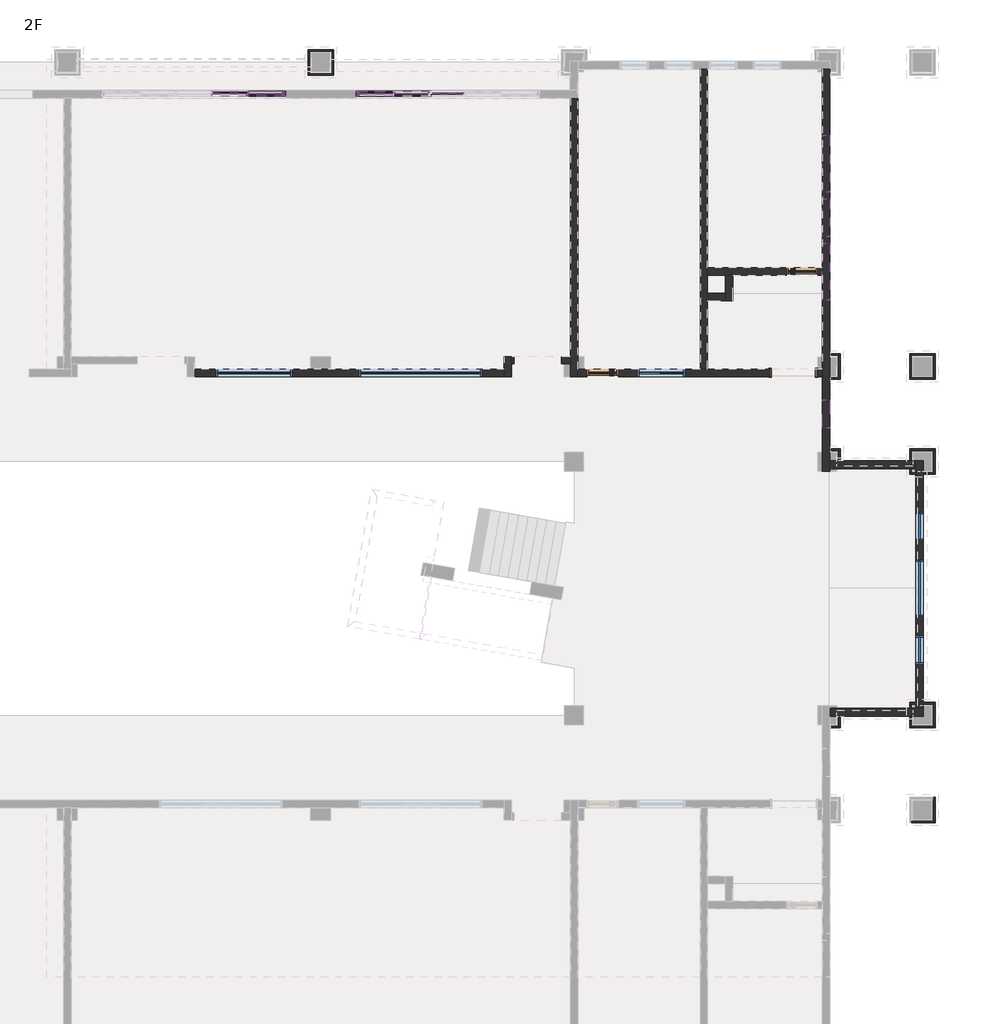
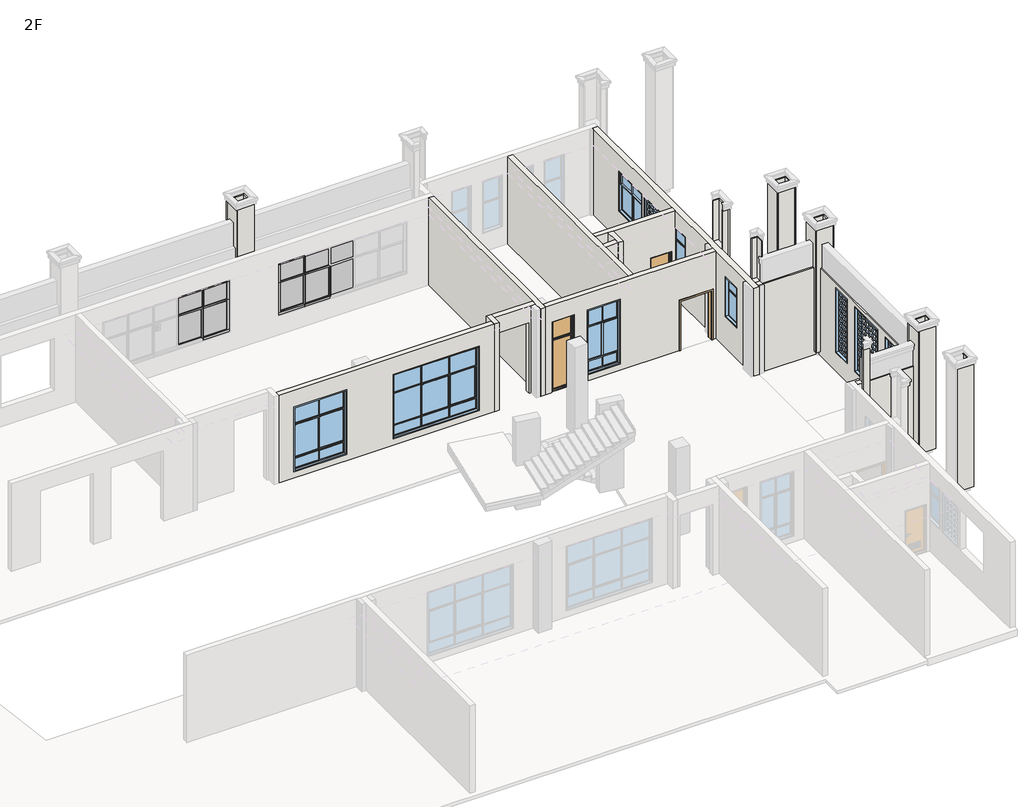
# One storey, part 8 of 16: 38 walls, 17 members, 10 windows, 8 plates, 3 doors.
"""IFC4 building model written with IfcOpenShell, lengths in millimetres."""

from ifc_helpers import new_model, si_unit, frame, origin, place, context, project, spatial, polyline, outline, extrude, faceted_brep, transform, mapped, element, save
from components import dk1_dk1_83e99b34, m2_m2_dfb05117, m3_m3_68d9ec90, member_7564be38, member_1f4d75dd, member_0b7842ad, member_163d5e45, member_ffafc35e, member_9c26cac3, member_6c42befd, member_a374fdad, plate_75e73fbb, plate_f4dba16c, plate_1cc4df2b, plate_4fa5932a, plate_00f9c624, window_f5fa71fb, byc2_byc2_f14416d1, byc3_byc3_bbe23264, lc2_lc2_cf207e28, lc5_lc5_9ec79463, lc6_lc6_03a52bd1, lc7_lc7_62699857, lc7a_lc7a_525a1188, lc8_lc8_f37dbe4c

model = new_model("IFC4")

# Units and contexts
model_context = context("Model", 3, world=origin())
ifc_project = project(units=[si_unit("LENGTHUNIT", "METRE", prefix="MILLI")], contexts=[model_context])

# Site, building, storey
site = spatial("IfcSite", under=ifc_project)
building = spatial("IfcBuilding", under=site)
storey = spatial("IfcBuildingStorey", under=building, Name="2F", Elevation=4200.0)

# Doors
placement = place(None, origin())
dk1_dk1_shape = dk1_dk1_83e99b34(model_context)
element("IfcDoor", 1, ObjectType="DK1 : DK1", at=placement, inside=storey, context=model_context, shape_type="MappedRepresentation", body=[
    mapped(dk1_dk1_shape, transform((81925.0, 23399.2230996, 4200.0), x_axis=(1.0, 0.0, 0.0), y_axis=(0.0, 1.0, 0.0), z_axis=(0.0, 0.0, 1.0))),
])
m2_m2_shape = m2_m2_dfb05117(model_context)
element("IfcDoor", 2, ObjectType="M2 : M2", at=placement, inside=storey, context=model_context, shape_type="MappedRepresentation", body=[
    mapped(m2_m2_shape, transform((75899.9999992, 23399.2230996, 4200.0), x_axis=(1.0, 0.0, 0.0), y_axis=(0.0, 1.0, 0.0), z_axis=(0.0, 0.0, 1.0))),
])
m3_m3_shape = m3_m3_68d9ec90(model_context)
element("IfcDoor", 3, ObjectType="M3 : M3", at=placement, inside=storey, context=model_context, shape_type="MappedRepresentation", body=[
    mapped(m3_m3_shape, transform((82199.9999997, 26599.2230996, 4200.0), x_axis=(-1.0, 0.0, 0.0), y_axis=(0.0, -1.0, 0.0), z_axis=(0.0, 0.0, 1.0))),
])

# Members
member_shape = member_7564be38(model_context)
element("IfcMember", 4, ObjectType="矩形竖梃 : 教学楼 – 矩形竖梃 – 100x150mm", at=placement, inside=storey, context=model_context, shape_type="MappedRepresentation", body=[
    mapped(member_shape, transform((65900.0000002, 32210.0, 7600.0), x_axis=(0.0, 0.0, 1.0), y_axis=(0.0, -1.0, 0.0), z_axis=(1.0, 0.0, 0.0))),
])
element("IfcMember", 5, ObjectType="矩形竖梃 : 教学楼 – 矩形竖梃 – 100x150mm", at=placement, inside=storey, context=model_context, shape_type="MappedRepresentation", body=[
    mapped(member_shape, transform((68099.9999995, 32210.0, 5100.0), x_axis=(0.0, 0.0, -1.0), y_axis=(0.0, -1.0, 0.0), z_axis=(-1.0, 0.0, 0.0))),
])
member_2_shape = member_1f4d75dd(model_context)
element("IfcMember", 6, ObjectType="矩形竖梃 : 教学楼 – 矩形竖梃 – 50x150mm", at=placement, inside=storey, context=model_context, shape_type="MappedRepresentation", body=[
    mapped(member_2_shape, transform((70449.9999995, 32210.0, 5200.0), x_axis=(1.0, 0.0, 0.0), y_axis=(0.0, -1.0, 0.0), z_axis=(0.0, 0.0, -1.0))),
])
member_3_shape = member_0b7842ad(model_context)
element("IfcMember", 7, ObjectType="矩形竖梃 : 教学楼 – 矩形竖梃 – 50x150mm", at=placement, inside=storey, context=model_context, shape_type="MappedRepresentation", body=[
    mapped(member_3_shape, transform((69299.9999995, 32210.0, 6650.0), x_axis=(0.0, 0.0, 1.0), y_axis=(0.0, -1.0, 0.0), z_axis=(1.0, 0.0, 0.0))),
])
member_4_shape = member_163d5e45(model_context)
element("IfcMember", 8, ObjectType="矩形竖梃 : 教学楼 – 矩形竖梃 – 50x150mm", at=placement, inside=storey, context=model_context, shape_type="MappedRepresentation", body=[
    mapped(member_4_shape, transform((64700.0000002, 32210.0, 6650.0), x_axis=(0.0, 0.0, 1.0), y_axis=(0.0, -1.0, 0.0), z_axis=(1.0, 0.0, 0.0))),
])
element("IfcMember", 9, ObjectType="矩形竖梃 : 教学楼 – 矩形竖梃 – 50x150mm", at=placement, inside=storey, context=model_context, shape_type="MappedRepresentation", body=[
    mapped(member_4_shape, transform((70449.9999995, 32210.0, 6650.0), x_axis=(0.0, 0.0, 1.0), y_axis=(0.0, -1.0, 0.0), z_axis=(1.0, 0.0, 0.0))),
])
element("IfcMember", 10, ObjectType="矩形竖梃 : 教学楼 – 矩形竖梃 – 50x150mm", at=placement, inside=storey, context=model_context, shape_type="MappedRepresentation", body=[
    mapped(member_3_shape, transform((65800.0000002, 32210.0, 6650.0), x_axis=(0.0, 0.0, 1.0), y_axis=(0.0, -1.0, 0.0), z_axis=(1.0, 0.0, 0.0))),
])
member_5_shape = member_ffafc35e(model_context)
element("IfcMember", 11, ObjectType="矩形竖梃 : 教学楼 – 矩形竖梃 – 100x150mm", at=placement, inside=storey, context=model_context, shape_type="MappedRepresentation", body=[
    mapped(member_5_shape, transform((69299.9999995, 32210.0, 5100.0), x_axis=(0.0, 0.0, -1.0), y_axis=(0.0, -1.0, 0.0), z_axis=(-1.0, 0.0, 0.0))),
])
element("IfcMember", 12, ObjectType="矩形竖梃 : 教学楼 – 矩形竖梃 – 100x150mm", at=placement, inside=storey, context=model_context, shape_type="MappedRepresentation", body=[
    mapped(member_shape, transform((64700.0000002, 32210.0, 5100.0), x_axis=(0.0, 0.0, -1.0), y_axis=(0.0, -1.0, 0.0), z_axis=(-1.0, 0.0, 0.0))),
])
element("IfcMember", 13, ObjectType="矩形竖梃 : 教学楼 – 矩形竖梃 – 100x150mm", at=placement, inside=storey, context=model_context, shape_type="MappedRepresentation", body=[
    mapped(member_shape, transform((69299.9999995, 32210.0, 7600.0), x_axis=(0.0, 0.0, 1.0), y_axis=(0.0, -1.0, 0.0), z_axis=(1.0, 0.0, 0.0))),
])
element("IfcMember", 14, ObjectType="矩形竖梃 : 教学楼 – 矩形竖梃 – 100x150mm", at=placement, inside=storey, context=model_context, shape_type="MappedRepresentation", body=[
    mapped(member_5_shape, transform((64700.0000002, 32210.0, 7600.0), x_axis=(0.0, 0.0, 1.0), y_axis=(0.0, -1.0, 0.0), z_axis=(1.0, 0.0, 0.0))),
])
member_6_shape = member_9c26cac3(model_context)
element("IfcMember", 15, ObjectType="矩形竖梃 : 教学楼 – 矩形竖梃 – 50x150mm", at=placement, inside=storey, context=model_context, shape_type="MappedRepresentation", body=[
    mapped(member_6_shape, transform((64700.0000002, 32210.0, 6675.0), x_axis=(1.0, 0.0, 0.0), y_axis=(0.0, -1.0, 0.0), z_axis=(0.0, 0.0, -1.0))),
])
element("IfcMember", 16, ObjectType="矩形竖梃 : 教学楼 – 矩形竖梃 – 50x150mm", at=placement, inside=storey, context=model_context, shape_type="MappedRepresentation", body=[
    mapped(member_6_shape, transform((69299.9999995, 32210.0, 6675.0), x_axis=(1.0, 0.0, 0.0), y_axis=(0.0, -1.0, 0.0), z_axis=(0.0, 0.0, -1.0))),
])
member_7_shape = member_6c42befd(model_context)
element("IfcMember", 17, ObjectType="矩形竖梃 : 教学楼 – 矩形竖梃 – 100x150mm", at=placement, inside=storey, context=model_context, shape_type="MappedRepresentation", body=[
    mapped(member_7_shape, transform((68099.9999995, 32210.0, 7500.0), x_axis=(-1.0, 0.0, 0.0), y_axis=(0.0, -1.0, 0.0), z_axis=(0.0, 0.0, 1.0))),
])
member_8_shape = member_a374fdad(model_context)
element("IfcMember", 18, ObjectType="矩形竖梃 : 教学楼 – 矩形竖梃 – 100x150mm", at=placement, inside=storey, context=model_context, shape_type="MappedRepresentation", body=[
    mapped(member_8_shape, transform((65900.0000002, 32210.0, 5200.0), x_axis=(1.0, 0.0, 0.0), y_axis=(0.0, -1.0, 0.0), z_axis=(0.0, 0.0, -1.0))),
])
element("IfcMember", 19, ObjectType="矩形竖梃 : 教学楼 – 矩形竖梃 – 100x150mm", at=placement, inside=storey, context=model_context, shape_type="MappedRepresentation", body=[
    mapped(member_7_shape, transform((65900.0000002, 32210.0, 6650.0), x_axis=(1.0, 0.0, 0.0), y_axis=(0.0, -1.0, 0.0), z_axis=(0.0, 0.0, -1.0))),
])
element("IfcMember", 20, ObjectType="矩形竖梃 : 教学楼 – 矩形竖梃 – 100x150mm", at=placement, inside=storey, context=model_context, shape_type="MappedRepresentation", body=[
    mapped(member_8_shape, transform((68099.9999995, 32210.0, 6650.0), x_axis=(-1.0, 0.0, 0.0), y_axis=(0.0, -1.0, 0.0), z_axis=(0.0, 0.0, 1.0))),
])

# Plates
plate_shape = plate_75e73fbb(model_context)
element("IfcPlate", 21, ObjectType="教学楼 - 窗嵌板：双扇推拉窗 : 教学楼 - 窗嵌板：双扇推拉窗", at=placement, inside=storey, context=model_context, shape_type="MappedRepresentation", body=[
    mapped(plate_shape, transform((69312.4999995, 32210.0, 5200.0), x_axis=(1.0, 0.0, 0.0), y_axis=(0.0, 1.0, 0.0), z_axis=(0.0, 0.0, 1.0))),
])
plate_2_shape = plate_f4dba16c(model_context)
element("IfcPlate", 22, ObjectType="系统嵌板 : 玻璃", at=placement, inside=storey, context=model_context, shape_type="MappedRepresentation", body=[
    mapped(plate_2_shape, transform((70999.9999995, 32210.0, 5200.0), x_axis=(1.0, 0.0, 0.0), y_axis=(0.0, 1.0, 0.0), z_axis=(0.0, 0.0, 1.0))),
])
element("IfcPlate", 23, ObjectType="教学楼 - 窗嵌板：双扇推拉窗 : 教学楼 - 窗嵌板：双扇推拉窗", at=placement, inside=storey, context=model_context, shape_type="MappedRepresentation", body=[
    mapped(plate_shape, transform((64687.5000002, 32210.0, 5200.0), x_axis=(1.0, 0.0, 0.0), y_axis=(0.0, 1.0, 0.0), z_axis=(0.0, 0.0, 1.0))),
])
plate_3_shape = plate_1cc4df2b(model_context)
element("IfcPlate", 24, ObjectType="系统嵌板 : 玻璃", at=placement, inside=storey, context=model_context, shape_type="MappedRepresentation", body=[
    mapped(plate_3_shape, transform((65262.5000002, 32210.0, 6675.0), x_axis=(1.0, 0.0, 0.0), y_axis=(0.0, 1.0, 0.0), z_axis=(0.0, 0.0, 1.0))),
])
element("IfcPlate", 25, ObjectType="系统嵌板 : 玻璃", at=placement, inside=storey, context=model_context, shape_type="MappedRepresentation", body=[
    mapped(plate_3_shape, transform((68737.4999995, 32210.0, 6675.0), x_axis=(1.0, 0.0, 0.0), y_axis=(0.0, 1.0, 0.0), z_axis=(0.0, 0.0, 1.0))),
])
plate_4_shape = plate_4fa5932a(model_context)
element("IfcPlate", 26, ObjectType="系统嵌板 : 玻璃", at=placement, inside=storey, context=model_context, shape_type="MappedRepresentation", body=[
    mapped(plate_4_shape, transform((64125.0000002, 32210.0, 6675.0), x_axis=(1.0, 0.0, 0.0), y_axis=(0.0, 1.0, 0.0), z_axis=(0.0, 0.0, 1.0))),
])
element("IfcPlate", 27, ObjectType="系统嵌板 : 玻璃", at=placement, inside=storey, context=model_context, shape_type="MappedRepresentation", body=[
    mapped(plate_4_shape, transform((69874.9999995, 32210.0, 6675.0), x_axis=(1.0, 0.0, 0.0), y_axis=(0.0, 1.0, 0.0), z_axis=(0.0, 0.0, 1.0))),
])
plate_5_shape = plate_00f9c624(model_context)
element("IfcPlate", 28, ObjectType="系统嵌板 : 玻璃", at=placement, inside=storey, context=model_context, shape_type="MappedRepresentation", body=[
    mapped(plate_5_shape, transform((70999.9999995, 32210.0, 6675.0), x_axis=(1.0, 0.0, 0.0), y_axis=(0.0, 1.0, 0.0), z_axis=(0.0, 0.0, 1.0))),
])

# Walls
element("IfcWall", 29, ObjectType="教学楼 – 饰面砖外墙 – 200mm", at=placement, inside=storey, context=model_context, shape_type="Brep", body=[
    faceted_brep([(82832.9999995, 32982.6954642, 4200.0), (82832.9999995, 32900.0, 4200.0), (82832.9999995, 26716.2230996, 4200.0), (82832.9999995, 26482.2230996, 4200.0), (82832.9999995, 23900.0, 4200.0), (82832.9999995, 23516.2230996, 4200.0), (82832.9999995, 23282.2230996, 4200.0), (82832.9999995, 20900.0, 4200.0), (82832.9999995, 20300.0, 4200.0), (82832.9999995, 20300.0, 8400.0), (82832.9999995, 20900.0, 8400.0), (82832.9999995, 23282.2230996, 8400.0), (82832.9999995, 23516.2230996, 8400.0), (82832.9999995, 23900.0, 8400.0), (82832.9999995, 26482.2230996, 8400.0), (82832.9999995, 26716.2230996, 8400.0), (82832.9999995, 32900.0, 8400.0), (82832.9999995, 32982.6954642, 8400.0), (82832.9999995, 28899.2230731, 5700.0), (82832.9999995, 28899.2230731, 7600.0), (82832.9999995, 27699.2230731, 7600.0), (82832.9999995, 27699.2230731, 5700.0), (82832.9999995, 21649.6954639, 5700.0), (82832.9999995, 22549.6954639, 5700.0), (82832.9999995, 22549.6954639, 7600.0), (82832.9999995, 21649.6954639, 7600.0), (82832.9999995, 27499.2230975, 5700.0), (82832.9999995, 27499.2230975, 7600.0), (82832.9999995, 25699.2230975, 7600.0), (82832.9999995, 25699.2230975, 5700.0), (82832.9999995, 30899.2230996, 5700.0), (82832.9999995, 30899.2230996, 7600.0), (82832.9999995, 29099.2230996, 7600.0), (82832.9999995, 29099.2230996, 5700.0), (83082.9999995, 32982.6954642, 4200.0), (83082.9999995, 32982.6954642, 8400.0), (83082.9999995, 32900.0, 8400.0), (83082.9999995, 23900.0, 8400.0), (83082.9999995, 23300.0, 8400.0), (83082.9999995, 20900.0, 8400.0), (83082.9999995, 20632.7242304, 8400.0), (83082.9999995, 20382.7242304, 8400.0), (83082.9999995, 20300.0, 8400.0), (83082.9999995, 20300.0, 4200.0), (83082.9999995, 20382.7242304, 4200.0), (83082.9999995, 20632.7242304, 4200.0), (83082.9999995, 20900.0, 4200.0), (83082.9999995, 23300.0, 4200.0), (83082.9999995, 23900.0, 4200.0), (83082.9999995, 32900.0, 4200.0), (83082.9999995, 28899.2230731, 5700.0), (83082.9999995, 27699.2230731, 5700.0), (83082.9999995, 27699.2230731, 7600.0), (83082.9999995, 28899.2230731, 7600.0), (83082.9999995, 21649.6954639, 5700.0), (83082.9999995, 21649.6954639, 7600.0), (83082.9999995, 22549.6954639, 7600.0), (83082.9999995, 22549.6954639, 5700.0), (83082.9999995, 27499.2230975, 5700.0), (83082.9999995, 25699.2230975, 5700.0), (83082.9999995, 25699.2230975, 7600.0), (83082.9999995, 27499.2230975, 7600.0), (83082.9999995, 30899.2230996, 5700.0), (83082.9999995, 29099.2230996, 5700.0), (83082.9999995, 29099.2230996, 7600.0), (83082.9999995, 30899.2230996, 7600.0)], [[[0, 1, 2, 3, 4, 5, 6, 7, 8, 9, 10, 11, 12, 13, 14, 15, 16, 17], [18, 19, 20, 21], [22, 23, 24, 25], [26, 27, 28, 29], [30, 31, 32, 33]], [[34, 35, 36, 37, 38, 39, 40, 41, 42, 43, 44, 45, 46, 47, 48, 49], [50, 51, 52, 53], [54, 55, 56, 57], [58, 59, 60, 61], [62, 63, 64, 65]], [[8, 7, 6, 5, 4, 3, 2, 1, 0, 34, 49, 48, 47, 46, 45, 44, 43]], [[9, 8, 43, 42]], [[17, 16, 15, 14, 13, 12, 11, 10, 9, 42, 41, 40, 39, 38, 37, 36, 35]], [[0, 17, 35, 34]], [[19, 18, 50, 53]], [[20, 19, 53, 52]], [[21, 20, 52, 51]], [[18, 21, 51, 50]], [[55, 54, 22, 25]], [[56, 55, 25, 24]], [[57, 56, 24, 23]], [[54, 57, 23, 22]], [[27, 26, 58, 61]], [[28, 27, 61, 60]], [[29, 28, 60, 59]], [[26, 29, 59, 58]], [[31, 30, 62, 65]], [[32, 31, 65, 64]], [[33, 32, 64, 63]], [[30, 33, 63, 62]]]),
])
element("IfcWall", 30, ObjectType="教学楼 – 涂料内墙 – 200mm", at=placement, inside=storey, context=model_context, shape_type="Brep", body=[
    faceted_brep([(74883.0, 32075.0, 4200.0), (74883.0, 23917.0, 4200.0), (74883.0, 23916.7231011, 4200.0), (74883.0, 23682.7231011, 4200.0), (74883.0, 23283.0, 4200.0), (74883.0, 23282.2230996, 4200.0), (74883.0, 23282.2230996, 8400.0), (74883.0, 23283.0, 8400.0), (74883.0, 23682.7231011, 8400.0), (74883.0, 23916.7231011, 8400.0), (74883.0, 23917.0, 8400.0), (74883.0, 32075.0, 8400.0), (75117.0, 32075.0, 4200.0), (75117.0, 32075.0, 8400.0), (75117.0, 23917.0, 8400.0), (75117.0, 23516.2230996, 8400.0), (75117.0, 23282.2230996, 8400.0), (75117.0, 23282.2230996, 4200.0), (75117.0, 23516.2230996, 4200.0), (75117.0, 23917.0, 4200.0)], [[[0, 1, 2, 3, 4, 5, 6, 7, 8, 9, 10, 11]], [[12, 13, 14, 15, 16, 17, 18, 19]], [[5, 4, 3, 2, 1, 0, 12, 19, 18, 17]], [[11, 10, 9, 8, 7, 6, 16, 15, 14, 13]], [[6, 5, 17, 16]], [[0, 11, 13, 12]]]),
])
element("IfcWall", 31, ObjectType="教学楼 – 涂料内墙 – 200mm", at=placement, inside=storey, context=model_context, shape_type="Brep", body=[
    faceted_brep([(78983.0000003, 32982.6954642, 4200.0), (78983.0000003, 23516.2230996, 4200.0), (78983.0000003, 23516.2230996, 8400.0), (78983.0000003, 32982.6954642, 8400.0), (79217.0000003, 32982.6954642, 4200.0), (79217.0000003, 32982.6954642, 8400.0), (79217.0000003, 26716.2230996, 8400.0), (79217.0000003, 26482.2230996, 8400.0), (79217.0000003, 25916.2230996, 8400.0), (79217.0000003, 25682.2230996, 8400.0), (79217.0000003, 23516.2230996, 8400.0), (79217.0000003, 23516.2230996, 4200.0), (79217.0000003, 25682.2230996, 4200.0), (79217.0000003, 25916.2230996, 4200.0), (79217.0000003, 26482.2230996, 4200.0), (79217.0000003, 26716.2230996, 4200.0)], [[[0, 1, 2, 3]], [[4, 5, 6, 7, 8, 9, 10, 11, 12, 13, 14, 15]], [[1, 0, 4, 15, 14, 13, 12, 11]], [[3, 2, 10, 9, 8, 7, 6, 5]], [[2, 1, 11, 10]], [[0, 3, 5, 4]]]),
])
element("IfcWall", 32, ObjectType="教学楼 – 涂料内墙 – 200mm", at=placement, inside=storey, context=model_context, shape_type="Brep", body=[
    faceted_brep([(82832.9999995, 26482.2230996, 8400.0), (80016.9999995, 26482.2230996, 8400.0), (79782.9999995, 26482.2230996, 8400.0), (79217.0000003, 26482.2230996, 8400.0), (79217.0000003, 26482.2230996, 4200.0), (79782.9999995, 26482.2230996, 4200.0), (80016.9999995, 26482.2230996, 4200.0), (81699.9999997, 26482.2230996, 4200.0), (81699.9999997, 26482.2230996, 6500.0), (82699.9999997, 26482.2230996, 6500.0), (82699.9999997, 26482.2230996, 4200.0), (82832.9999995, 26482.2230996, 4200.0), (79217.0000003, 26716.2230996, 8400.0), (82832.9999995, 26716.2230996, 8400.0), (82832.9999995, 26716.2230996, 4200.0), (82699.9999997, 26716.2230996, 4200.0), (82699.9999997, 26716.2230996, 6500.0), (81699.9999997, 26716.2230996, 6500.0), (81699.9999997, 26716.2230996, 4200.0), (79217.0000003, 26716.2230996, 4200.0)], [[[0, 1, 2, 3, 4, 5, 6, 7, 8, 9, 10, 11]], [[12, 13, 14, 15, 16, 17, 18, 19]], [[4, 19, 18, 7, 6, 5]], [[14, 11, 10, 15]], [[3, 2, 1, 0, 13, 12]], [[4, 3, 12, 19]], [[0, 11, 14, 13]], [[17, 8, 7, 18]], [[8, 17, 16, 9]], [[9, 16, 15, 10]]]),
])
element("IfcWall", 33, ObjectType="教学楼 – 涂料内墙 – 200mm", at=placement, inside=storey, context=model_context, shape_type="Brep", body=[
    faceted_brep([(82832.9999995, 23282.2230996, 8400.0), (75117.0, 23282.2230996, 8400.0), (75117.0, 23282.2230996, 4200.0), (75399.9999992, 23282.2230996, 4200.0), (75399.9999992, 23282.2230996, 7600.0), (76399.9999992, 23282.2230996, 7600.0), (76399.9999992, 23282.2230996, 4200.0), (81175.0, 23282.2230996, 4200.0), (81175.0, 23282.2230996, 6600.0), (82675.0, 23282.2230996, 6600.0), (82675.0, 23282.2230996, 4200.0), (82832.9999995, 23282.2230996, 4200.0), (76999.9999945, 23282.2230996, 4500.0), (76999.9999945, 23282.2230996, 7600.0), (78499.9999945, 23282.2230996, 7600.0), (78499.9999945, 23282.2230996, 4500.0), (75117.0, 23516.2230996, 8400.0), (75317.0, 23516.2230996, 8400.0), (78983.0000003, 23516.2230996, 8400.0), (79217.0000003, 23516.2230996, 8400.0), (82700.0, 23516.2230996, 8400.0), (82832.9999995, 23516.2230996, 8400.0), (82832.9999995, 23516.2230996, 4200.0), (82700.0, 23516.2230996, 4200.0), (82675.0, 23516.2230996, 4200.0), (82675.0, 23516.2230996, 6600.0), (81175.0, 23516.2230996, 6600.0), (81175.0, 23516.2230996, 4200.0), (79217.0000003, 23516.2230996, 4200.0), (78983.0000003, 23516.2230996, 4200.0), (76399.9999992, 23516.2230996, 4200.0), (76399.9999992, 23516.2230996, 7600.0), (75399.9999992, 23516.2230996, 7600.0), (75399.9999992, 23516.2230996, 4200.0), (75317.0, 23516.2230996, 4200.0), (75117.0, 23516.2230996, 4200.0), (76999.9999945, 23516.2230996, 4500.0), (78499.9999945, 23516.2230996, 4500.0), (78499.9999945, 23516.2230996, 7600.0), (76999.9999945, 23516.2230996, 7600.0)], [[[0, 1, 2, 3, 4, 5, 6, 7, 8, 9, 10, 11], [12, 13, 14, 15]], [[16, 17, 18, 19, 20, 21, 22, 23, 24, 25, 26, 27, 28, 29, 30, 31, 32, 33, 34, 35], [36, 37, 38, 39]], [[2, 35, 34, 33, 3]], [[22, 11, 10, 24, 23]], [[27, 7, 6, 30, 29, 28]], [[1, 0, 21, 20, 19, 18, 17, 16]], [[2, 1, 16, 35]], [[0, 11, 22, 21]], [[9, 25, 24, 10]], [[25, 9, 8, 26]], [[26, 8, 7, 27]], [[13, 12, 36, 39]], [[14, 13, 39, 38]], [[15, 14, 38, 37]], [[12, 15, 37, 36]], [[5, 31, 30, 6]], [[31, 5, 4, 32]], [[32, 4, 3, 33]]]),
])
element("IfcWall", 34, ObjectType="教学楼 – 涂料内墙 – 200mm", at=placement, inside=storey, context=model_context, shape_type="Brep", body=[
    faceted_brep([(74883.0, 23682.7231011, 8400.0), (74683.0, 23682.7231011, 8400.0), (73017.0, 23682.7231011, 8400.0), (73017.0, 23682.7231011, 4200.0), (73099.9999991, 23682.7231011, 4200.0), (73099.9999991, 23682.7231011, 7600.0), (74599.9999991, 23682.7231011, 7600.0), (74599.9999991, 23682.7231011, 4200.0), (74683.0, 23682.7231011, 4200.0), (74883.0, 23682.7231011, 4200.0), (73017.0, 23916.7231011, 8400.0), (74683.0, 23916.7231011, 8400.0), (74883.0, 23916.7231011, 8400.0), (74883.0, 23916.7231011, 4200.0), (74683.0, 23916.7231011, 4200.0), (74599.9999991, 23916.7231011, 4200.0), (74599.9999991, 23916.7231011, 7600.0), (73099.9999991, 23916.7231011, 7600.0), (73099.9999991, 23916.7231011, 4200.0), (73017.0, 23916.7231011, 4200.0)], [[[0, 1, 2, 3, 4, 5, 6, 7, 8, 9]], [[10, 11, 12, 13, 14, 15, 16, 17, 18, 19]], [[3, 19, 18, 4]], [[13, 9, 8, 7, 15, 14]], [[2, 1, 0, 12, 11, 10]], [[3, 2, 10, 19]], [[0, 9, 13, 12]], [[17, 5, 4, 18]], [[5, 17, 16, 6]], [[6, 16, 15, 7]]]),
])
element("IfcWall", 35, ObjectType="教学楼 – 涂料内墙 – 200mm", at=placement, inside=storey, context=model_context, shape_type="Brep", body=[
    faceted_brep([(72783.0, 23916.7231011, 4200.0), (72783.0, 23516.6954638, 4200.0), (72783.0, 23282.6954638, 4200.0), (72783.0, 23282.6954638, 8400.0), (72783.0, 23516.6954638, 8400.0), (72783.0, 23916.7231011, 8400.0), (73017.0, 23916.7231011, 4200.0), (73017.0, 23916.7231011, 8400.0), (73017.0, 23682.7231011, 8400.0), (73017.0, 23282.6954638, 8400.0), (73017.0, 23282.6954638, 4200.0), (73017.0, 23682.7231011, 4200.0)], [[[0, 1, 2, 3, 4, 5]], [[6, 7, 8, 9, 10, 11]], [[2, 1, 0, 6, 11, 10]], [[5, 4, 3, 9, 8, 7]], [[3, 2, 10, 9]], [[0, 5, 7, 6]]]),
])
element("IfcWall", 36, ObjectType="教学楼 – 涂料内墙 – 200mm", at=placement, inside=storey, context=model_context, shape_type="Brep", body=[
    faceted_brep([(72783.0, 23516.6954638, 4200.0), (67317.0, 23516.6954638, 4200.0), (66683.0, 23516.6954638, 4200.0), (63017.0000002, 23516.6954638, 4200.0), (63017.0000002, 23516.6954638, 8400.0), (66683.0, 23516.6954638, 8400.0), (67317.0, 23516.6954638, 8400.0), (72783.0, 23516.6954638, 8400.0), (66100.0, 23516.6954638, 4500.0), (66100.0, 23516.6954638, 7600.0), (63700.0, 23516.6954638, 7600.0), (63700.0, 23516.6954638, 4500.0), (72100.0000004, 23516.6954638, 4500.0), (72100.0000004, 23516.6954638, 7600.0), (68200.0000004, 23516.6954638, 7600.0), (68200.0000004, 23516.6954638, 4500.0), (72783.0, 23282.6954638, 4200.0), (72783.0, 23282.6954638, 8400.0), (63017.0000002, 23282.6954638, 8400.0), (63017.0000002, 23282.6954638, 4200.0), (66100.0, 23282.6954638, 4500.0), (63700.0, 23282.6954638, 4500.0), (63700.0, 23282.6954638, 7600.0), (66100.0, 23282.6954638, 7600.0), (72100.0000004, 23282.6954638, 4500.0), (68200.0000004, 23282.6954638, 4500.0), (68200.0000004, 23282.6954638, 7600.0), (72100.0000004, 23282.6954638, 7600.0)], [[[0, 1, 2, 3, 4, 5, 6, 7], [8, 9, 10, 11], [12, 13, 14, 15]], [[16, 17, 18, 19], [20, 21, 22, 23], [24, 25, 26, 27]], [[3, 2, 1, 0, 16, 19]], [[7, 6, 5, 4, 18, 17]], [[0, 7, 17, 16]], [[4, 3, 19, 18]], [[9, 8, 20, 23]], [[10, 9, 23, 22]], [[11, 10, 22, 21]], [[8, 11, 21, 20]], [[13, 12, 24, 27]], [[14, 13, 27, 26]], [[15, 14, 26, 25]], [[12, 15, 25, 24]]]),
])
element("IfcWall", 37, ObjectType="教学楼 – 涂料内墙 – 200mm", at=placement, inside=storey, context=model_context, shape_type="Brep", body=[
    faceted_brep([(79782.9999995, 26482.2230996, 4200.0), (79782.9999995, 25916.2230996, 4200.0), (79782.9999995, 25682.2230996, 4200.0), (79782.9999995, 25682.2230996, 8400.0), (79782.9999995, 25916.2230996, 8400.0), (79782.9999995, 26482.2230996, 8400.0), (80016.9999995, 26482.2230996, 4200.0), (80016.9999995, 26482.2230996, 8400.0), (80016.9999995, 25682.2230996, 8400.0), (80016.9999995, 25682.2230996, 4200.0)], [[[0, 1, 2, 3, 4, 5]], [[6, 7, 8, 9]], [[2, 1, 0, 6, 9]], [[5, 4, 3, 8, 7]], [[3, 2, 9, 8]], [[0, 5, 7, 6]]]),
])
element("IfcWall", 38, ObjectType="教学楼 – 涂料内墙 – 200mm", at=placement, inside=storey, context=model_context, shape_type="SweptSolid", body=[
    extrude(outline(polyline([(79217.0000003, 25916.2230996), (79782.9999995, 25916.2230996), (79782.9999995, 25682.2230996), (79217.0000003, 25682.2230996), (79217.0000003, 25916.2230996)])), frame((0.0, 0.0, 4200.0), z_axis=(0.0, 0.0, 1.0), x_axis=(1.0, 0.0, 0.0)), (0.0, 0.0, 1.0), 4200.0),
])
element("IfcWall", 39, ObjectType="教学楼 – 饰面砖外墙 – 200mm", at=placement, inside=storey, context=model_context, shape_type="Brep", body=[
    faceted_brep([(83082.9999995, 12566.6954636, 4200.0), (83300.0, 12566.6954636, 4200.0), (83350.0, 12566.6954636, 4200.0), (83400.0, 12566.6954636, 4200.0), (85700.0, 12566.6954636, 4200.0), (86033.0000012, 12566.6954636, 4200.0), (86033.0000012, 12566.6954636, 8400.0), (85700.0, 12566.6954636, 8400.0), (83300.0, 12566.6954636, 8400.0), (83082.9999995, 12566.6954636, 8400.0), (83082.9999995, 12816.6954636, 4200.0), (83082.9999995, 12816.6954636, 8400.0), (83300.0, 12816.6954636, 8400.0), (85700.0, 12816.6954636, 8400.0), (85783.0000012, 12816.6954636, 8400.0), (86033.0000012, 12816.6954636, 8400.0), (86033.0000012, 12816.6954636, 4200.0), (85783.0000012, 12816.6954636, 4200.0), (85700.0, 12816.6954636, 4200.0), (83300.0, 12816.6954636, 4200.0)], [[[0, 1, 2, 3, 4, 5, 6, 7, 8, 9]], [[10, 11, 12, 13, 14, 15, 16, 17, 18, 19]], [[5, 4, 3, 2, 1, 0, 10, 19, 18, 17, 16]], [[9, 8, 7, 6, 15, 14, 13, 12, 11]], [[6, 5, 16, 15]], [[0, 9, 11, 10]]]),
])
element("IfcWall", 40, ObjectType="教学楼 – 饰面砖外墙 – 200mm", at=placement, inside=storey, context=model_context, shape_type="Brep", body=[
    faceted_brep([(86033.0000012, 12816.6954636, 4200.0), (86033.0000012, 12900.0, 4200.0), (86033.0000012, 20300.0, 4200.0), (86033.0000012, 20632.7242304, 4200.0), (86033.0000012, 20632.7242304, 8400.0), (86033.0000012, 20300.0, 8400.0), (86033.0000012, 12900.0, 8400.0), (86033.0000012, 12816.6954636, 8400.0), (86033.0000012, 14200.0, 5100.0), (86033.0000012, 14200.0, 8200.0), (86033.0000012, 15100.0, 8200.0), (86033.0000012, 15100.0, 5100.0), (86033.0000012, 15699.6954656, 5100.0), (86033.0000012, 15699.6954656, 8200.0), (86033.0000012, 17499.6954656, 8200.0), (86033.0000012, 17499.6954656, 5100.0), (86033.0000012, 18099.6954632, 5100.0), (86033.0000012, 18099.6954632, 8200.0), (86033.0000012, 18999.6954632, 8200.0), (86033.0000012, 18999.6954632, 5100.0), (85783.0000012, 12816.6954636, 4200.0), (85783.0000012, 12816.6954636, 8400.0), (85783.0000012, 12900.0, 8400.0), (85783.0000012, 20300.0, 8400.0), (85783.0000012, 20382.7242304, 8400.0), (85783.0000012, 20632.7242304, 8400.0), (85783.0000012, 20632.7242304, 4200.0), (85783.0000012, 20382.7242304, 4200.0), (85783.0000012, 20300.0, 4200.0), (85783.0000012, 12900.0, 4200.0), (85783.0000012, 14200.0, 5100.0), (85783.0000012, 15100.0, 5100.0), (85783.0000012, 15100.0, 8200.0), (85783.0000012, 14200.0, 8200.0), (85783.0000012, 15699.6954656, 5100.0), (85783.0000012, 17499.6954656, 5100.0), (85783.0000012, 17499.6954656, 8200.0), (85783.0000012, 15699.6954656, 8200.0), (85783.0000012, 18099.6954632, 5100.0), (85783.0000012, 18999.6954632, 5100.0), (85783.0000012, 18999.6954632, 8200.0), (85783.0000012, 18099.6954632, 8200.0)], [[[0, 1, 2, 3, 4, 5, 6, 7], [8, 9, 10, 11], [12, 13, 14, 15], [16, 17, 18, 19]], [[20, 21, 22, 23, 24, 25, 26, 27, 28, 29], [30, 31, 32, 33], [34, 35, 36, 37], [38, 39, 40, 41]], [[3, 2, 1, 0, 20, 29, 28, 27, 26]], [[7, 6, 5, 4, 25, 24, 23, 22, 21]], [[0, 7, 21, 20]], [[4, 3, 26, 25]], [[9, 8, 30, 33]], [[10, 9, 33, 32]], [[11, 10, 32, 31]], [[8, 11, 31, 30]], [[13, 12, 34, 37]], [[14, 13, 37, 36]], [[15, 14, 36, 35]], [[12, 15, 35, 34]], [[17, 16, 38, 41]], [[18, 17, 41, 40]], [[19, 18, 40, 39]], [[16, 19, 39, 38]]]),
])
element("IfcWall", 41, ObjectType="教学楼 – 饰面砖外墙 – 200mm", at=placement, inside=storey, context=model_context, shape_type="Brep", body=[
    faceted_brep([(85783.0000012, 20632.7242304, 4200.0), (85700.0, 20632.7242304, 4200.0), (83300.0, 20632.7242304, 4200.0), (83082.9999995, 20632.7242304, 4200.0), (83082.9999995, 20632.7242304, 8400.0), (83300.0, 20632.7242304, 8400.0), (85700.0, 20632.7242304, 8400.0), (85783.0000012, 20632.7242304, 8400.0), (85783.0000012, 20382.7242304, 4200.0), (85783.0000012, 20382.7242304, 8400.0), (85700.0, 20382.7242304, 8400.0), (83300.0, 20382.7242304, 8400.0), (83082.9999995, 20382.7242304, 8400.0), (83082.9999995, 20382.7242304, 4200.0), (83300.0, 20382.7242304, 4200.0), (85700.0, 20382.7242304, 4200.0)], [[[0, 1, 2, 3, 4, 5, 6, 7]], [[8, 9, 10, 11, 12, 13, 14, 15]], [[3, 2, 1, 0, 8, 15, 14, 13]], [[7, 6, 5, 4, 12, 11, 10, 9]], [[0, 7, 9, 8]], [[4, 3, 13, 12]]]),
])
element("IfcWall", 42, ObjectType="教学楼 - 浅驼色装饰板 - 50mm", at=placement, inside=storey, context=model_context, shape_type="Brep", body=[
    faceted_brep([(66600.0, 33550.0, 4200.0), (66650.0, 33550.0, 4200.0), (67350.0, 33550.0, 4200.0), (67350.0, 33550.0, 10300.0), (66650.0, 33550.0, 10300.0), (66600.0, 33550.0, 10300.0), (66600.0, 33600.0, 4200.0), (66600.0, 33600.0, 10300.0), (67350.0, 33600.0, 10300.0), (67350.0, 33600.0, 4200.0)], [[[0, 1, 2, 3, 4, 5]], [[6, 7, 8, 9]], [[2, 1, 0, 6, 9]], [[5, 4, 3, 8, 7]], [[0, 5, 7, 6]], [[3, 2, 9, 8]]]),
])
element("IfcWall", 43, ObjectType="教学楼 - 浅驼色装饰板 - 50mm", at=placement, inside=storey, context=model_context, shape_type="Brep", body=[
    faceted_brep([(66650.0, 32799.640208, 4200.0), (66650.0, 32849.640208, 4200.0), (66650.0, 33550.0, 4200.0), (66650.0, 33550.0, 10300.0), (66650.0, 32849.640208, 10300.0), (66650.0, 32799.640208, 10300.0), (66600.0, 32799.640208, 4200.0), (66600.0, 32799.640208, 10300.0), (66600.0, 33550.0, 10300.0), (66600.0, 33550.0, 4200.0)], [[[0, 1, 2, 3, 4, 5]], [[6, 7, 8, 9]], [[2, 1, 0, 6, 9]], [[5, 4, 3, 8, 7]], [[0, 5, 7, 6]], [[3, 2, 9, 8]]]),
])
element("IfcWall", 44, ObjectType="教学楼 - 浅驼色装饰板 - 50mm", at=placement, inside=storey, context=model_context, shape_type="Brep", body=[
    faceted_brep([(67400.0, 32849.640208, 4200.0), (67350.0, 32849.640208, 4200.0), (66650.0, 32849.640208, 4200.0), (66650.0, 32849.640208, 10300.0), (67350.0, 32849.640208, 10300.0), (67400.0, 32849.640208, 10300.0), (67400.0, 32799.640208, 4200.0), (67400.0, 32799.640208, 10300.0), (66650.0, 32799.640208, 10300.0), (66650.0, 32799.640208, 4200.0)], [[[0, 1, 2, 3, 4, 5]], [[6, 7, 8, 9]], [[2, 1, 0, 6, 9]], [[5, 4, 3, 8, 7]], [[0, 5, 7, 6]], [[3, 2, 9, 8]]]),
])
element("IfcWall", 45, ObjectType="教学楼 - 浅驼色装饰板 - 50mm", at=placement, inside=storey, context=model_context, shape_type="Brep", body=[
    faceted_brep([(67350.0, 33600.0, 4200.0), (67350.0, 33550.0, 4200.0), (67350.0, 32849.640208, 4200.0), (67350.0, 32849.640208, 10300.0), (67350.0, 33550.0, 10300.0), (67350.0, 33600.0, 10300.0), (67400.0, 33600.0, 4200.0), (67400.0, 33600.0, 10300.0), (67400.0, 32849.640208, 10300.0), (67400.0, 32849.640208, 4200.0)], [[[0, 1, 2, 3, 4, 5]], [[6, 7, 8, 9]], [[2, 1, 0, 6, 9]], [[5, 4, 3, 8, 7]], [[0, 5, 7, 6]], [[3, 2, 9, 8]]]),
])
element("IfcWall", 46, ObjectType="教学楼 - 浅驼色装饰板 - 50mm", at=placement, inside=storey, context=model_context, shape_type="Brep", body=[
    faceted_brep([(86400.0, 24000.0, 4400.0), (85650.0, 24000.0, 4400.0), (85650.0, 24000.0, 10300.0), (86400.0, 24000.0, 10300.0), (86400.0, 23950.0, 4400.0), (86400.0, 23950.0, 10300.0), (86350.0, 23950.0, 10300.0), (85650.0, 23950.0, 10300.0), (85650.0, 23950.0, 4400.0), (86350.0, 23950.0, 4400.0)], [[[0, 1, 2, 3]], [[4, 5, 6, 7, 8, 9]], [[1, 0, 4, 9, 8]], [[3, 2, 7, 6, 5]], [[0, 3, 5, 4]], [[2, 1, 8, 7]]]),
])
element("IfcWall", 47, ObjectType="教学楼 - 浅驼色装饰板 - 50mm", at=placement, inside=storey, context=model_context, shape_type="Brep", body=[
    faceted_brep([(86400.0, 23200.0, 4400.0), (86400.0, 23950.0, 4400.0), (86400.0, 23950.0, 10300.0), (86400.0, 23200.0, 10300.0), (86350.0, 23200.0, 4400.0), (86350.0, 23200.0, 10300.0), (86350.0, 23250.0, 10300.0), (86350.0, 23950.0, 10300.0), (86350.0, 23950.0, 4400.0), (86350.0, 23250.0, 4400.0)], [[[0, 1, 2, 3]], [[4, 5, 6, 7, 8, 9]], [[1, 0, 4, 9, 8]], [[3, 2, 7, 6, 5]], [[0, 3, 5, 4]], [[2, 1, 8, 7]]]),
])
element("IfcWall", 48, ObjectType="教学楼 - 浅驼色装饰板 - 50mm", at=placement, inside=storey, context=model_context, shape_type="Brep", body=[
    faceted_brep([(85600.0, 23200.0, 4400.0), (86350.0, 23200.0, 4400.0), (86350.0, 23200.0, 10300.0), (85600.0, 23200.0, 10300.0), (85600.0, 23250.0, 4400.0), (85600.0, 23250.0, 10300.0), (85650.0, 23250.0, 10300.0), (86350.0, 23250.0, 10300.0), (86350.0, 23250.0, 4400.0), (85650.0, 23250.0, 4400.0)], [[[0, 1, 2, 3]], [[4, 5, 6, 7, 8, 9]], [[1, 0, 4, 9, 8]], [[3, 2, 7, 6, 5]], [[0, 3, 5, 4]], [[2, 1, 8, 7]]]),
])
element("IfcWall", 49, ObjectType="教学楼 - 浅驼色装饰板 - 50mm", at=placement, inside=storey, context=model_context, shape_type="Brep", body=[
    faceted_brep([(85600.0, 24000.0, 4400.0), (85600.0, 23250.0, 4400.0), (85600.0, 23250.0, 10300.0), (85600.0, 24000.0, 10300.0), (85650.0, 24000.0, 4400.0), (85650.0, 24000.0, 10300.0), (85650.0, 23950.0, 10300.0), (85650.0, 23250.0, 10300.0), (85650.0, 23250.0, 4400.0), (85650.0, 23950.0, 4400.0)], [[[0, 1, 2, 3]], [[4, 5, 6, 7, 8, 9]], [[1, 0, 4, 9, 8]], [[3, 2, 7, 6, 5]], [[0, 3, 5, 4]], [[2, 1, 8, 7]]]),
])
element("IfcWall", 50, ObjectType="教学楼 - 浅驼色装饰板 - 50mm", at=placement, inside=storey, context=model_context, shape_type="Brep", body=[
    faceted_brep([(86400.0, 21000.0, 4400.0), (85650.0, 21000.0, 4400.0), (85650.0, 21000.0, 10300.0), (86400.0, 21000.0, 10300.0), (86400.0, 20950.0, 4400.0), (86400.0, 20950.0, 10300.0), (86350.0, 20950.0, 10300.0), (85650.0, 20950.0, 10300.0), (85650.0, 20950.0, 4400.0), (86350.0, 20950.0, 4400.0)], [[[0, 1, 2, 3]], [[4, 5, 6, 7, 8, 9]], [[1, 0, 4, 9, 8]], [[3, 2, 7, 6, 5]], [[0, 3, 5, 4]], [[2, 1, 8, 7]]]),
])
element("IfcWall", 51, ObjectType="教学楼 - 浅驼色装饰板 - 50mm", at=placement, inside=storey, context=model_context, shape_type="Brep", body=[
    faceted_brep([(86400.0, 20200.0, 4400.0), (86400.0, 20950.0, 4400.0), (86400.0, 20950.0, 10300.0), (86400.0, 20200.0, 10300.0), (86350.0, 20200.0, 4400.0), (86350.0, 20200.0, 10300.0), (86350.0, 20250.0, 10300.0), (86350.0, 20950.0, 10300.0), (86350.0, 20950.0, 4400.0), (86350.0, 20250.0, 4400.0)], [[[0, 1, 2, 3]], [[4, 5, 6, 7, 8, 9]], [[1, 0, 4, 9, 8]], [[3, 2, 7, 6, 5]], [[0, 3, 5, 4]], [[2, 1, 8, 7]]]),
])
element("IfcWall", 52, ObjectType="教学楼 - 浅驼色装饰板 - 50mm", at=placement, inside=storey, context=model_context, shape_type="Brep", body=[
    faceted_brep([(85600.0, 20200.0, 4400.0), (86350.0, 20200.0, 4400.0), (86350.0, 20200.0, 10300.0), (85600.0, 20200.0, 10300.0), (85600.0, 20250.0, 4400.0), (85600.0, 20250.0, 10300.0), (85650.0, 20250.0, 10300.0), (86350.0, 20250.0, 10300.0), (86350.0, 20250.0, 4400.0), (85650.0, 20250.0, 4400.0)], [[[0, 1, 2, 3]], [[4, 5, 6, 7, 8, 9]], [[1, 0, 4, 9, 8]], [[3, 2, 7, 6, 5]], [[0, 3, 5, 4]], [[2, 1, 8, 7]]]),
])
element("IfcWall", 53, ObjectType="教学楼 - 浅驼色装饰板 - 50mm", at=placement, inside=storey, context=model_context, shape_type="Brep", body=[
    faceted_brep([(85600.0, 21000.0, 4400.0), (85600.0, 20250.0, 4400.0), (85600.0, 20250.0, 10300.0), (85600.0, 21000.0, 10300.0), (85650.0, 21000.0, 4400.0), (85650.0, 21000.0, 10300.0), (85650.0, 20950.0, 10300.0), (85650.0, 20250.0, 10300.0), (85650.0, 20250.0, 4400.0), (85650.0, 20950.0, 4400.0)], [[[0, 1, 2, 3]], [[4, 5, 6, 7, 8, 9]], [[1, 0, 4, 9, 8]], [[3, 2, 7, 6, 5]], [[0, 3, 5, 4]], [[2, 1, 8, 7]]]),
])
element("IfcWall", 54, ObjectType="教学楼 - 浅驼色装饰板 - 50mm", at=placement, inside=storey, context=model_context, shape_type="Brep", body=[
    faceted_brep([(83102.9999998, 23950.0, 4200.0), (83350.0, 23950.0, 4200.0), (83400.0, 23950.0, 4200.0), (83400.0, 23950.0, 10300.0), (83350.0, 23950.0, 10300.0), (83102.9999998, 23950.0, 10300.0), (83102.9999998, 24000.0, 4200.0), (83102.9999998, 24000.0, 10300.0), (83400.0, 24000.0, 10300.0), (83400.0, 24000.0, 4200.0)], [[[0, 1, 2, 3, 4, 5]], [[6, 7, 8, 9]], [[2, 1, 0, 6, 9]], [[5, 4, 3, 8, 7]], [[0, 5, 7, 6]], [[3, 2, 9, 8]]]),
])
element("IfcWall", 55, ObjectType="教学楼 - 浅驼色装饰板 - 50mm", at=placement, inside=storey, context=model_context, shape_type="Brep", body=[
    faceted_brep([(83350.0, 23950.0, 4200.0), (83350.0, 23250.0, 4200.0), (83350.0, 23200.0, 4200.0), (83350.0, 23200.0, 10300.0), (83350.0, 23250.0, 10300.0), (83350.0, 23950.0, 10300.0), (83400.0, 23950.0, 4200.0), (83400.0, 23950.0, 10300.0), (83400.0, 23200.0, 10300.0), (83400.0, 23200.0, 4200.0)], [[[0, 1, 2, 3, 4, 5]], [[6, 7, 8, 9]], [[2, 1, 0, 6, 9]], [[5, 4, 3, 8, 7]], [[0, 5, 7, 6]], [[3, 2, 9, 8]]]),
])
element("IfcWall", 56, ObjectType="教学楼 - 浅驼色装饰板 - 50mm", at=placement, inside=storey, context=model_context, shape_type="SweptSolid", body=[
    extrude(outline(polyline([(83102.9999998, 23250.0), (83350.0, 23250.0), (83350.0, 23200.0), (83102.9999998, 23200.0), (83102.9999998, 23250.0)])), frame((0.0, 0.0, 4200.0), z_axis=(0.0, 0.0, 1.0), x_axis=(1.0, 0.0, 0.0)), (0.0, 0.0, 1.0), 6100.0),
])
element("IfcWall", 57, ObjectType="教学楼 - 浅驼色装饰板 - 50mm", at=placement, inside=storey, context=model_context, shape_type="Brep", body=[
    faceted_brep([(83102.9999998, 20950.0, 4200.0), (83350.0, 20950.0, 4200.0), (83400.0, 20950.0, 4200.0), (83400.0, 20950.0, 10300.0), (83350.0, 20950.0, 10300.0), (83102.9999998, 20950.0, 10300.0), (83102.9999998, 21000.0, 4200.0), (83102.9999998, 21000.0, 10300.0), (83400.0, 21000.0, 10300.0), (83400.0, 21000.0, 4200.0)], [[[0, 1, 2, 3, 4, 5]], [[6, 7, 8, 9]], [[2, 1, 0, 6, 9]], [[5, 4, 3, 8, 7]], [[0, 5, 7, 6]], [[3, 2, 9, 8]]]),
])
element("IfcWall", 58, ObjectType="教学楼 - 浅驼色装饰板 - 50mm", at=placement, inside=storey, context=model_context, shape_type="Brep", body=[
    faceted_brep([(83350.0, 20950.0, 4200.0), (83350.0, 20633.3045364, 4200.0), (83350.0, 20633.3045364, 8400.0), (83350.0, 20633.3045364, 10300.0), (83350.0, 20950.0, 10300.0), (83400.0, 20950.0, 4200.0), (83400.0, 20950.0, 10300.0), (83400.0, 20633.3045364, 10300.0), (83400.0, 20633.3045364, 8400.0), (83400.0, 20633.3045364, 4200.0)], [[[0, 1, 2, 3, 4]], [[5, 6, 7, 8, 9]], [[1, 0, 5, 9]], [[3, 2, 1, 9, 8, 7]], [[4, 3, 7, 6]], [[0, 4, 6, 5]]]),
])
element("IfcWall", 59, ObjectType="教学楼 - 浅驼色装饰板 - 50mm", at=placement, inside=storey, context=model_context, shape_type="Brep", body=[
    faceted_brep([(86400.0, 9250.0, 4400.0), (86350.0, 9250.0, 4400.0), (85650.0, 9250.0, 4400.0), (85650.0, 9250.0, 10300.0), (86350.0, 9250.0, 10300.0), (86400.0, 9250.0, 10300.0), (86400.0, 9200.0, 4400.0), (86400.0, 9200.0, 10300.0), (85650.0, 9200.0, 10300.0), (85650.0, 9200.0, 4400.0)], [[[0, 1, 2, 3, 4, 5]], [[6, 7, 8, 9]], [[2, 1, 0, 6, 9]], [[5, 4, 3, 8, 7]], [[0, 5, 7, 6]], [[3, 2, 9, 8]]]),
])
element("IfcWall", 60, ObjectType="教学楼 - 浅驼色装饰板 - 50mm", at=placement, inside=storey, context=model_context, shape_type="Brep", body=[
    faceted_brep([(86350.0, 10000.0, 4400.0), (86350.0, 9950.0, 4400.0), (86350.0, 9250.0, 4400.0), (86350.0, 9250.0, 10300.0), (86350.0, 9950.0, 10300.0), (86350.0, 10000.0, 10300.0), (86400.0, 10000.0, 4400.0), (86400.0, 10000.0, 10300.0), (86400.0, 9250.0, 10300.0), (86400.0, 9250.0, 4400.0)], [[[0, 1, 2, 3, 4, 5]], [[6, 7, 8, 9]], [[2, 1, 0, 6, 9]], [[5, 4, 3, 8, 7]], [[0, 5, 7, 6]], [[3, 2, 9, 8]]]),
])
element("IfcWall", 61, ObjectType="教学楼 - 浅驼色装饰板 - 50mm", at=placement, inside=storey, context=model_context, shape_type="Brep", body=[
    faceted_brep([(86400.0, 12250.0, 4400.0), (86350.0, 12250.0, 4400.0), (85650.0, 12250.0, 4400.0), (85650.0, 12250.0, 10300.0), (86350.0, 12250.0, 10300.0), (86400.0, 12250.0, 10300.0), (86400.0, 12200.0, 4400.0), (86400.0, 12200.0, 10300.0), (85650.0, 12200.0, 10300.0), (85650.0, 12200.0, 4400.0)], [[[0, 1, 2, 3, 4, 5]], [[6, 7, 8, 9]], [[2, 1, 0, 6, 9]], [[5, 4, 3, 8, 7]], [[0, 5, 7, 6]], [[3, 2, 9, 8]]]),
])
element("IfcWall", 62, ObjectType="教学楼 - 浅驼色装饰板 - 50mm", at=placement, inside=storey, context=model_context, shape_type="Brep", body=[
    faceted_brep([(86350.0, 13000.0, 4400.0), (86350.0, 12950.0, 4400.0), (86350.0, 12250.0, 4400.0), (86350.0, 12250.0, 10300.0), (86350.0, 12950.0, 10300.0), (86350.0, 13000.0, 10300.0), (86400.0, 13000.0, 4400.0), (86400.0, 13000.0, 10300.0), (86400.0, 12250.0, 10300.0), (86400.0, 12250.0, 4400.0)], [[[0, 1, 2, 3, 4, 5]], [[6, 7, 8, 9]], [[2, 1, 0, 6, 9]], [[5, 4, 3, 8, 7]], [[0, 5, 7, 6]], [[3, 2, 9, 8]]]),
])
element("IfcWall", 63, ObjectType="教学楼 - 浅驼色装饰板 - 50mm", at=placement, inside=storey, context=model_context, shape_type="Brep", body=[
    faceted_brep([(85600.0, 12950.0, 4400.0), (85650.0, 12950.0, 4400.0), (86350.0, 12950.0, 4400.0), (86350.0, 12950.0, 10300.0), (85650.0, 12950.0, 10300.0), (85600.0, 12950.0, 10300.0), (85600.0, 13000.0, 4400.0), (85600.0, 13000.0, 10300.0), (86350.0, 13000.0, 10300.0), (86350.0, 13000.0, 4400.0)], [[[0, 1, 2, 3, 4, 5]], [[6, 7, 8, 9]], [[2, 1, 0, 6, 9]], [[5, 4, 3, 8, 7]], [[0, 5, 7, 6]], [[3, 2, 9, 8]]]),
])
element("IfcWall", 64, ObjectType="教学楼 - 浅驼色装饰板 - 50mm", at=placement, inside=storey, context=model_context, shape_type="Brep", body=[
    faceted_brep([(85650.0, 12200.0, 4400.0), (85650.0, 12250.0, 4400.0), (85650.0, 12950.0, 4400.0), (85650.0, 12950.0, 10300.0), (85650.0, 12250.0, 10300.0), (85650.0, 12200.0, 10300.0), (85600.0, 12200.0, 4400.0), (85600.0, 12200.0, 10300.0), (85600.0, 12950.0, 10300.0), (85600.0, 12950.0, 4400.0)], [[[0, 1, 2, 3, 4, 5]], [[6, 7, 8, 9]], [[2, 1, 0, 6, 9]], [[5, 4, 3, 8, 7]], [[0, 5, 7, 6]], [[3, 2, 9, 8]]]),
])
element("IfcWall", 65, ObjectType="教学楼 - 浅驼色装饰板 - 50mm", at=placement, inside=storey, context=model_context, shape_type="Brep", body=[
    faceted_brep([(83102.9999998, 12200.0, 4200.0), (83400.0, 12200.0, 4200.0), (83400.0, 12200.0, 10300.0), (83102.9999998, 12200.0, 10300.0), (83102.9999998, 12250.0, 4200.0), (83102.9999998, 12250.0, 10300.0), (83350.0, 12250.0, 10300.0), (83400.0, 12250.0, 10300.0), (83400.0, 12250.0, 4200.0), (83350.0, 12250.0, 4200.0)], [[[0, 1, 2, 3]], [[4, 5, 6, 7, 8, 9]], [[1, 0, 4, 9, 8]], [[3, 2, 7, 6, 5]], [[0, 3, 5, 4]], [[2, 1, 8, 7]]]),
])
element("IfcWall", 66, ObjectType="教学楼 - 浅驼色装饰板 - 50mm", at=placement, inside=storey, context=model_context, shape_type="Brep", body=[
    faceted_brep([(83400.0, 12250.0, 4200.0), (83400.0, 12566.6954636, 4200.0), (83400.0, 12566.6954636, 8400.0), (83400.0, 12566.6954636, 10300.0), (83400.0, 12250.0, 10300.0), (83350.0, 12250.0, 4200.0), (83350.0, 12250.0, 10300.0), (83350.0, 12566.6954636, 10300.0), (83350.0, 12566.6954636, 8400.0), (83350.0, 12566.6954636, 4200.0)], [[[0, 1, 2, 3, 4]], [[5, 6, 7, 8, 9]], [[1, 0, 5, 9]], [[4, 3, 7, 6]], [[0, 4, 6, 5]], [[1, 9, 8, 7, 3, 2]]]),
])

# Windows
window_shape = window_f5fa71fb(model_context)
element("IfcWindow", 67, ObjectType="LC9_带格栅 : LC9_带格栅", at=placement, inside=storey, context=model_context, shape_type="MappedRepresentation", body=[
    mapped(window_shape, transform((82949.3011339, 28299.2230731, 4200.0), x_axis=(0.0, -1.0, 0.0), y_axis=(1.0, 0.0, 0.0), z_axis=(0.0, 0.0, 1.0))),
])
byc2_byc2_shape = byc2_byc2_f14416d1(model_context)
element("IfcWindow", 68, ObjectType="BYC2 : BYC2", at=placement, inside=storey, context=model_context, shape_type="MappedRepresentation", body=[
    mapped(byc2_byc2_shape, transform((85908.0000012, 16599.6954656, 4200.0), x_axis=(-2.3983769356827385e-11, 1.0, 0.0), y_axis=(-1.0, -2.3983769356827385e-11, 0.0), z_axis=(0.0, 0.0, 1.0))),
])
byc3_byc3_shape = byc3_byc3_bbe23264(model_context)
element("IfcWindow", 69, ObjectType="BYC3 : BYC3", at=placement, inside=storey, context=model_context, shape_type="MappedRepresentation", body=[
    mapped(byc3_byc3_shape, transform((85908.0000012, 18549.6954632, 4200.0), x_axis=(-2.3983769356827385e-11, 1.0, 0.0), y_axis=(-1.0, -2.3983769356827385e-11, 0.0), z_axis=(0.0, 0.0, 1.0))),
])
element("IfcWindow", 70, ObjectType="BYC3 : BYC3", at=placement, inside=storey, context=model_context, shape_type="MappedRepresentation", body=[
    mapped(byc3_byc3_shape, transform((85908.0000013, 14650.0, 4200.0), x_axis=(-2.3983769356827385e-11, 1.0, 0.0), y_axis=(-1.0, -2.3983769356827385e-11, 0.0), z_axis=(0.0, 0.0, 1.0))),
])
lc2_lc2_shape = lc2_lc2_cf207e28(model_context)
element("IfcWindow", 71, ObjectType="LC2 : LC2", at=placement, inside=storey, context=model_context, shape_type="MappedRepresentation", body=[
    mapped(lc2_lc2_shape, transform((82958.0, 22099.6954639, 4200.0), x_axis=(0.0, -1.0, 0.0), y_axis=(1.0, 0.0, 0.0), z_axis=(0.0, 0.0, 1.0))),
])
lc5_lc5_shape = lc5_lc5_9ec79463(model_context)
element("IfcWindow", 72, ObjectType="LC5 : LC5", at=placement, inside=storey, context=model_context, shape_type="MappedRepresentation", body=[
    mapped(lc5_lc5_shape, transform((70150.0000004, 23399.6954638, 4200.0), x_axis=(-1.0, 0.0, 0.0), y_axis=(0.0, -1.0, 0.0), z_axis=(0.0, 0.0, 1.0))),
])
lc6_lc6_shape = lc6_lc6_03a52bd1(model_context)
element("IfcWindow", 73, ObjectType="LC6 : LC6", at=placement, inside=storey, context=model_context, shape_type="MappedRepresentation", body=[
    mapped(lc6_lc6_shape, transform((77749.9999945, 23399.2230996, 4200.0), x_axis=(1.0, 0.0, 0.0), y_axis=(0.0, 1.0, 0.0), z_axis=(0.0, 0.0, 1.0))),
])
lc7_lc7_shape = lc7_lc7_62699857(model_context)
element("IfcWindow", 74, ObjectType="LC7 : LC7", at=placement, inside=storey, context=model_context, shape_type="MappedRepresentation", body=[
    mapped(lc7_lc7_shape, transform((82949.3011339, 29999.2230996, 4200.0), x_axis=(0.0, -1.0, 0.0), y_axis=(1.0, 0.0, 0.0), z_axis=(0.0, 0.0, 1.0))),
])
lc7a_lc7a_shape = lc7a_lc7a_525a1188(model_context)
element("IfcWindow", 75, ObjectType="LC7A : LC7A", at=placement, inside=storey, context=model_context, shape_type="MappedRepresentation", body=[
    mapped(lc7a_lc7a_shape, transform((82957.9048675, 26599.2230975, 4200.0), x_axis=(0.0, -1.0, 0.0), y_axis=(1.0, 0.0, 0.0), z_axis=(0.0, 0.0, 1.0))),
])
lc8_lc8_shape = lc8_lc8_f37dbe4c(model_context)
element("IfcWindow", 76, ObjectType="LC8 : LC8", at=placement, inside=storey, context=model_context, shape_type="MappedRepresentation", body=[
    mapped(lc8_lc8_shape, transform((64900.0, 23399.6954638, 4200.0), x_axis=(-1.0, 0.0, 0.0), y_axis=(0.0, -1.0, 0.0), z_axis=(0.0, 0.0, 1.0))),
])

save(model, "model.ifc")
